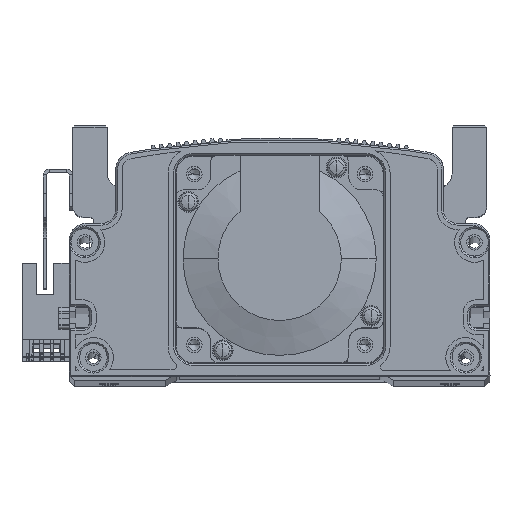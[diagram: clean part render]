
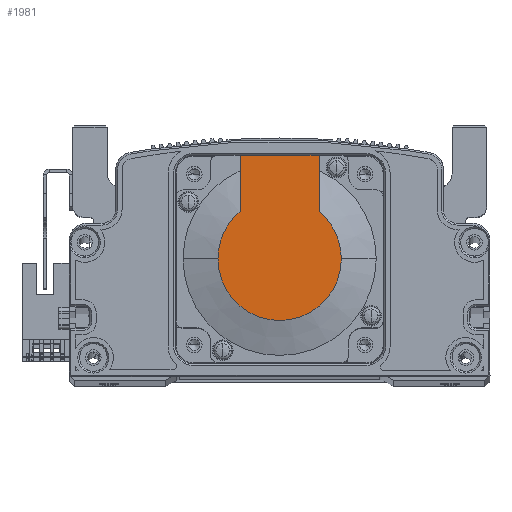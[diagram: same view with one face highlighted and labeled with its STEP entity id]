
A CAD part, top view. The second image highlights one B-rep face of the part: STEP entity #1981.
In plain terms, the highlighted planar face has unit normal (0, 0, 1) as drawn and (-1, 0, 0) by its records, which use the part's own axes.
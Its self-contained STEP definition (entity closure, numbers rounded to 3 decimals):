
#1981 = ADVANCED_FACE ( 'NONE', ( #26669 ), #3735, .T. ) ;
#2086 = CIRCLE ( 'NONE', #7561, 17.881 ) ;
#2281 = ORIENTED_EDGE ( 'NONE', *, *, #50381, .T. ) ;
#3735 = PLANE ( 'NONE',  #18957 ) ;
#4476 = CARTESIAN_POINT ( 'NONE',  ( -118.5, -8.941, 0. ) ) ;
#6080 = VECTOR ( 'NONE', #50099, 1000. ) ;
#6775 = CARTESIAN_POINT ( 'NONE',  ( -118.5, 30., 11.45 ) ) ;
#7561 = AXIS2_PLACEMENT_3D ( 'NONE', #18491, #12711, #13215 ) ;
#8306 = ORIENTED_EDGE ( 'NONE', *, *, #51711, .T. ) ;
#10543 = CARTESIAN_POINT ( 'NONE',  ( -118.5, 0., 11.45 ) ) ;
#12711 = DIRECTION ( 'NONE',  ( -1., 0., 0. ) ) ;
#12826 = CIRCLE ( 'NONE', #38137, 17.881 ) ;
#12879 = ORIENTED_EDGE ( 'NONE', *, *, #26470, .F. ) ;
#13215 = DIRECTION ( 'NONE',  ( 0., 0., -1. ) ) ;
#13733 = VERTEX_POINT ( 'NONE', #6775 ) ;
#17068 = AXIS2_PLACEMENT_3D ( 'NONE', #22538, #51403, #51882 ) ;
#17681 = CARTESIAN_POINT ( 'NONE',  ( -118.5, 0., 17.881 ) ) ;
#18229 = CIRCLE ( 'NONE', #17068, 17.881 ) ;
#18491 = CARTESIAN_POINT ( 'NONE',  ( -118.5, 0., 0. ) ) ;
#18957 = AXIS2_PLACEMENT_3D ( 'NONE', #4476, #55514, #44550 ) ;
#19472 = VERTEX_POINT ( 'NONE', #60523 ) ;
#19711 = VECTOR ( 'NONE', #25844, 1000. ) ;
#20099 = VECTOR ( 'NONE', #42405, 1000. ) ;
#20664 = CARTESIAN_POINT ( 'NONE',  ( -118.5, -8.941, -11.45 ) ) ;
#22538 = CARTESIAN_POINT ( 'NONE',  ( -118.5, 0., 0. ) ) ;
#25844 = DIRECTION ( 'NONE',  ( 0., -1., 0. ) ) ;
#26470 = EDGE_CURVE ( 'NONE', #13733, #19472, #50578, .T. ) ;
#26669 = FACE_OUTER_BOUND ( 'NONE', #37623, .T. ) ;
#28381 = CARTESIAN_POINT ( 'NONE',  ( -118.5, 0., -17.881 ) ) ;
#32262 = DIRECTION ( 'NONE',  ( 0., 0., -1. ) ) ;
#37623 = EDGE_LOOP ( 'NONE', ( #8306, #59365, #68843, #2281, #12879, #55100 ) ) ;
#38137 = AXIS2_PLACEMENT_3D ( 'NONE', #71586, #43730, #32262 ) ;
#41053 = LINE ( 'NONE', #20664, #19711 ) ;
#42405 = DIRECTION ( 'NONE',  ( 0., 0., 1. ) ) ;
#43730 = DIRECTION ( 'NONE',  ( -1., 0., 0. ) ) ;
#44550 = DIRECTION ( 'NONE',  ( 0., 0., 1. ) ) ;
#45516 = CARTESIAN_POINT ( 'NONE',  ( -118.5, 30., -11.45 ) ) ;
#47466 = VERTEX_POINT ( 'NONE', #67878 ) ;
#50099 = DIRECTION ( 'NONE',  ( 0., -1., 0. ) ) ;
#50145 = EDGE_CURVE ( 'NONE', #54990, #57908, #12826, .T. ) ;
#50352 = LINE ( 'NONE', #71227, #20099 ) ;
#50381 = EDGE_CURVE ( 'NONE', #57908, #19472, #2086, .T. ) ;
#50578 = LINE ( 'NONE', #10543, #6080 ) ;
#51403 = DIRECTION ( 'NONE',  ( -1., 0., 0. ) ) ;
#51711 = EDGE_CURVE ( 'NONE', #60512, #47466, #41053, .T. ) ;
#51882 = DIRECTION ( 'NONE',  ( 0., 0., -1. ) ) ;
#54990 = VERTEX_POINT ( 'NONE', #28381 ) ;
#55100 = ORIENTED_EDGE ( 'NONE', *, *, #69999, .F. ) ;
#55514 = DIRECTION ( 'NONE',  ( -1., 0., 0. ) ) ;
#57908 = VERTEX_POINT ( 'NONE', #17681 ) ;
#58551 = EDGE_CURVE ( 'NONE', #47466, #54990, #18229, .T. ) ;
#59365 = ORIENTED_EDGE ( 'NONE', *, *, #58551, .T. ) ;
#60512 = VERTEX_POINT ( 'NONE', #45516 ) ;
#60523 = CARTESIAN_POINT ( 'NONE',  ( -118.5, 13.735, 11.45 ) ) ;
#67878 = CARTESIAN_POINT ( 'NONE',  ( -118.5, 13.735, -11.45 ) ) ;
#68843 = ORIENTED_EDGE ( 'NONE', *, *, #50145, .T. ) ;
#69999 = EDGE_CURVE ( 'NONE', #60512, #13733, #50352, .T. ) ;
#71227 = CARTESIAN_POINT ( 'NONE',  ( -118.5, 30., 25. ) ) ;
#71586 = CARTESIAN_POINT ( 'NONE',  ( -118.5, 0., 0. ) ) ;
